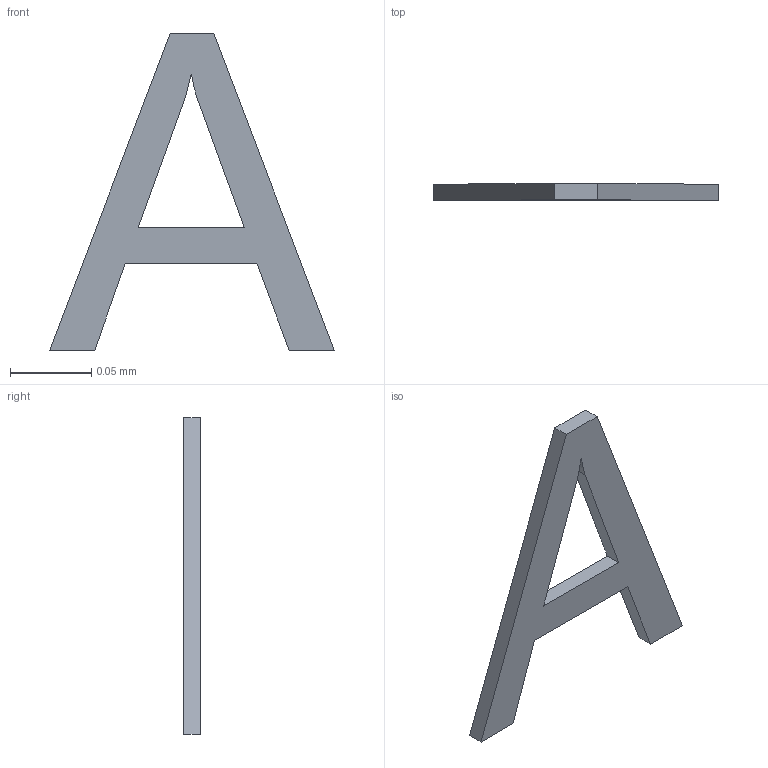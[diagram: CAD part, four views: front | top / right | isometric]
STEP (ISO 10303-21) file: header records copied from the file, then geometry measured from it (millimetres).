
FILE_DESCRIPTION(/* description */ ('STEP AP242 Edition 2','CAx-IF Rec.Pracs.---Representation and Presentation of Product Manufacturing Information (PMI)---4.0---2014-10-13','CAx-IF Rec.Pracs.---3D Tessellated Geometry---0.4---2014-09-14','2;1','CAx-IF Rec.Pracs.---User Defined Attributes---1.5---2016-08-15'),/* implementation_level */ '2;1');
FILE_NAME(/* name */ 'Assembly 1 - SW-TH_3P-L5.8_WSGT-3P-CC~SW-TH_3P-L5.8_WSGT-3P-CC~nxQB (13)',/* time_stamp */ '2026-04-02T09:55:27Z',/* author */ (''),/* organization */ (''),/* preprocessor_version */ 'ST-DEVELOPER v20',/* originating_system */ 'ONSHAPE BY PTC INC, 1.212',/* authorisation */ ' ');
FILE_SCHEMA (('AP242_MANAGED_MODEL_BASED_3D_ENGINEERING_MIM_LF { 1 0 10303 442 3 1 4 }'));
Length unit declared in the file: metre
Products named in the file (1): SW-TH_3P-L5.8_WSGT-3P-CC~SW-TH_3P-L5.8_WSGT-3P-CC~nxQB
Bounding box: 0.18 x 0.01 x 0.19 mm (x, y, z)
Volume: 0 mm3; surface area: 0 mm2
Topology: 1 solids, 1 shells, 16 faces, 42 edges, 28 vertices
Faces by surface type: plane 15, bspline 1
Entity records: 632 total; most frequent: CARTESIAN_POINT 103, ORIENTED_EDGE 84, DIRECTION 71, EDGE_CURVE 42, LINE 39, VECTOR 39, VERTEX_POINT 28, EDGE_LOOP 18
